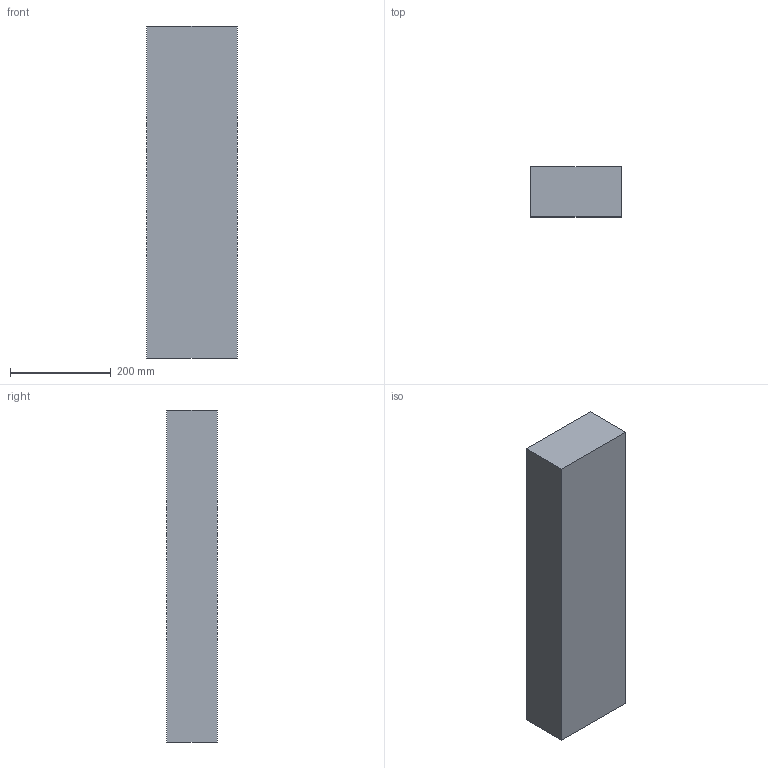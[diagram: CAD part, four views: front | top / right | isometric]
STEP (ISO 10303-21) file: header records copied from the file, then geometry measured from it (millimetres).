
FILE_DESCRIPTION(/* description */ (''),/* implementation_level */ '2;1');
FILE_NAME(/* name */ 'C:/Users/LukasGröber/GMS Cloud/Groeber Mannheim Lichtwerke - Dokumente/Marketing/Produkte/3D Daten/Wandleuchte Eifel im Herbst/Wandleuchte Eifel im Herbst 66x18.step',/* time_stamp */ '2022-07-11T09:45:28+02:00',/* author */ (''),/* organization */ (''),/* preprocessor_version */ 'ST-DEVELOPER v19',/* originating_system */ 'Autodesk Translation Framework v11.7.0.108',/* authorisation */ '');
FILE_SCHEMA (('AUTOMOTIVE_DESIGN { 1 0 10303 214 3 1 1 }'));
Length unit declared in the file: millimetre
Products named in the file (1): Wandleuchte Eifel im Herbst 66x18
Bounding box: 180 x 100 x 660 mm (x, y, z)
Volume: 11880000 mm3; surface area: 405600 mm2
Topology: 1 solids, 1 shells, 6 faces, 12 edges, 8 vertices
Faces by surface type: plane 6
Entity records: 204 total; most frequent: CARTESIAN_POINT 27, DIRECTION 26, ORIENTED_EDGE 24, LINE 12, VECTOR 12, EDGE_CURVE 12, VERTEX_POINT 8, AXIS2_PLACEMENT_3D 7
